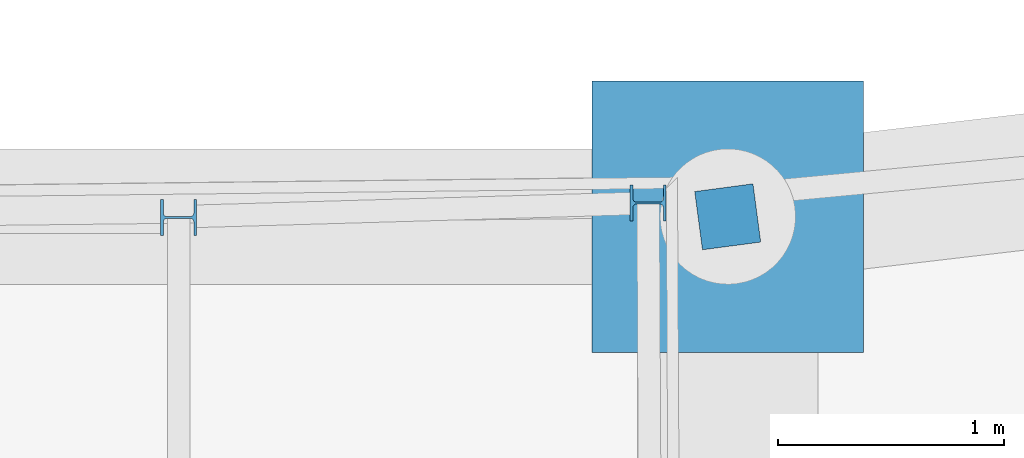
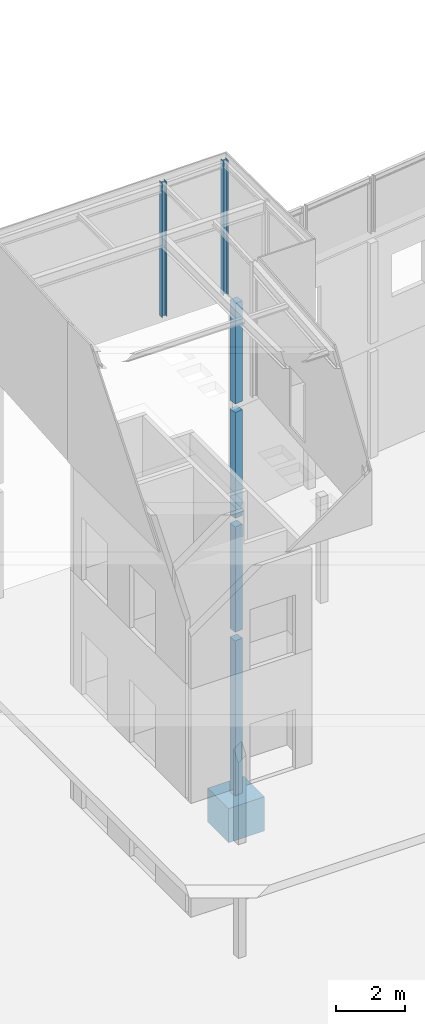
# One storey, part 49 of 82: 7 columns.
"""IFC2X3 building model written with IfcOpenShell, lengths in millimetres."""

import ifcopenshell
import ifcopenshell.guid

model = None  # the IFC model being written
_history = None  # IfcOwnerHistory: only IFC2X3 demands one
_inside = {}  # id of a spatial element -> (the spatial element, [elements in it])
_under = {}  # id of a project, library or spatial element -> (it, [spatial elements below it])
_declared = {}  # id of a project -> (the project, [libraries it declares])
_typed = {}  # id of a type object -> (the type object, [elements of that type])
_made_of = {}  # id of a material, layer set ... -> (it, [elements and type objects made of it])


def new_model(schema):
    """Start an empty IFC model of exactly this schema.

    Asked for "IFC4X3", IfcOpenShell would pick the latest addendum, in which some entities
    have other attributes; the version numbers below select the first issue.
    IFC2X3 requires an IfcOwnerHistory on every rooted entity: one is made here for all.
    """
    global model, _history
    if schema == "IFC4X3":
        model = ifcopenshell.file(schema_version=(4, 3, 0, 0))
    else:
        model = ifcopenshell.file(schema=schema)
    _inside.clear()
    _under.clear()
    _declared.clear()
    _typed.clear()
    _made_of.clear()
    _history = None
    if model.schema == "IFC2X3":
        org = make("IfcOrganization", Name="unknown")
        user = make(
            "IfcPersonAndOrganization",
            ThePerson=make("IfcPerson", FamilyName="unknown"),
            TheOrganization=org,
        )
        app = make(
            "IfcApplication",
            ApplicationDeveloper=org,
            Version="unknown",
            ApplicationFullName="unknown",
            ApplicationIdentifier="unknown",
        )
        _history = make(
            "IfcOwnerHistory",
            OwningUser=user,
            OwningApplication=app,
            ChangeAction="ADDED",
            CreationDate=0,
        )
    return model


def make(cls, **values):
    """One entity of the class cls with the attributes given. An attribute that is None is left unset."""
    return model.create_entity(
        cls, **{name: value for name, value in values.items() if value is not None}
    )


def rooted(cls, **values):
    """An entity with a GlobalId (a new one), such as an element, a storey or a relation."""
    return make(cls, GlobalId=ifcopenshell.guid.new(), OwnerHistory=_history, **values)


def si_unit(unit_type, name, prefix=None):
    """IfcSIUnit, for example si_unit("LENGTHUNIT", "METRE", prefix="MILLI")."""
    return make("IfcSIUnit", UnitType=unit_type, Prefix=prefix, Name=name)


def assignment(units):
    """IfcUnitAssignment: the units of a project."""
    return None if units is None else make("IfcUnitAssignment", Units=units)


def point(xyz):
    """IfcCartesianPoint."""
    return None if xyz is None else make("IfcCartesianPoint", Coordinates=xyz)


def direction(xyz):
    """IfcDirection."""
    return None if xyz is None else make("IfcDirection", DirectionRatios=xyz)


def frame(location, z_axis=None, x_axis=None):
    """IfcAxis2Placement3D, a coordinate frame: its origin and axes. An axis left out is left unset."""
    return make(
        "IfcAxis2Placement3D",
        Location=point(location),
        Axis=direction(z_axis),
        RefDirection=direction(x_axis),
    )


def frame_2d(location, x_axis=None):
    """IfcAxis2Placement2D, a coordinate frame in the plane: its origin and x axis."""
    return make(
        "IfcAxis2Placement2D", Location=point(location), RefDirection=direction(x_axis)
    )


def origin_with_axes():
    """The frame at (0, 0, 0) with the z axis (0, 0, 1) and the x axis (1, 0, 0) written out."""
    return frame((0.0, 0.0, 0.0), z_axis=(0.0, 0.0, 1.0), x_axis=(1.0, 0.0, 0.0))


def place(relative_to, where):
    """IfcLocalPlacement: puts the frame where relative to a parent placement (None: the world)."""
    return make(
        "IfcLocalPlacement", PlacementRelTo=relative_to, RelativePlacement=where
    )


def context(
    kind, dimensions, precision=None, world=None, true_north=None, identifier=None
):
    """IfcGeometricRepresentationContext, for example the 3D "Model" context."""
    return make(
        "IfcGeometricRepresentationContext",
        ContextIdentifier=identifier,
        ContextType=kind,
        CoordinateSpaceDimension=dimensions,
        Precision=precision,
        WorldCoordinateSystem=world,
        TrueNorth=true_north,
    )


def subcontext(parent, identifier, kind, view, scale=None):
    """IfcGeometricRepresentationSubContext, for example "Body" below "Model"."""
    return make(
        "IfcGeometricRepresentationSubContext",
        ContextIdentifier=identifier,
        ContextType=kind,
        ParentContext=parent,
        TargetScale=scale,
        TargetView=view,
    )


def project(units=None, contexts=None):
    """IfcProject with its units and contexts."""
    return rooted(
        "IfcProject",
        Name="project",
        RepresentationContexts=contexts,
        UnitsInContext=assignment(units),
    )


def spatial(cls, under=None, at=None, **own):
    """A site, building, storey or space (cls), placed at a placement, below another one or the project."""
    s = rooted(cls, ObjectPlacement=at, **own)
    if under is not None:
        _under.setdefault(under.id(), (under, []))[1].append(s)
    return s


def profile(cls, at=None, kind="AREA", **sizes):
    """A parametric profile (cls). Its sizes go by their IFC names, for example OverallWidth=200.0."""
    return make(cls, ProfileType=kind, Position=at, **sizes)


def rectangle(**sizes):
    """IfcRectangleProfileDef."""
    return profile("IfcRectangleProfileDef", **sizes)


def i_section(**sizes):
    """IfcIShapeProfileDef."""
    return profile("IfcIShapeProfileDef", **sizes)


def extrude(swept, where, along, depth):
    """IfcExtrudedAreaSolid: the profile swept, set in the frame where, extruded along a direction by depth."""
    return make(
        "IfcExtrudedAreaSolid",
        SweptArea=swept,
        Position=where,
        ExtrudedDirection=direction(along),
        Depth=depth,
    )


def shape(context_of_items, identifier, shape_type, items):
    """IfcShapeRepresentation: the items that make up one representation, for example the "Body"."""
    return make(
        "IfcShapeRepresentation",
        ContextOfItems=context_of_items,
        RepresentationIdentifier=identifier,
        RepresentationType=shape_type,
        Items=items,
    )


def material(Name=None, Category=None):
    """IfcMaterial."""
    return make("IfcMaterial", Name=Name, Category=Category)


def made_of(thing, what):
    """Note that an element or type object is made of a material, layer set ...; save() writes the relation."""
    if what is not None:
        _made_of.setdefault(what.id(), (what, []))[1].append(thing)
    return thing


def type_object(cls, material=None, **own):
    """A type object (cls), such as IfcWallType, which elements share."""
    return made_of(rooted(cls, **own), material)


def element(
    cls,
    number,
    at=None,
    inside=None,
    cuts=None,
    type_object=None,
    material=None,
    context=None,
    identifier="Body",
    shape_type=None,
    held_by="IfcProductDefinitionShape",
    body=None,
    shapes=None,
    **own,
):
    """One element of the class cls, such as IfcWall. Its Tag is "e" and its number.

    at: its placement. inside: the storey or other place that contains it. cuts: it is an
    opening in that element (IfcRelVoidsElement). A single representation is given by context,
    identifier, shape_type and body (its items); several are given by shapes. held_by: the class
    of the entity that holds the representations. save() writes the other relations.
    """
    e = rooted(cls, Tag="e%d" % number, ObjectPlacement=at, **own)
    if body is not None:
        shapes = [shape(context, identifier, shape_type, body)]
    if shapes is not None:
        e.Representation = make(held_by, Representations=shapes)
    if inside is not None:
        _inside.setdefault(inside.id(), (inside, []))[1].append(e)
    if cuts is not None:
        rooted(
            "IfcRelVoidsElement", RelatingBuildingElement=cuts, RelatedOpeningElement=e
        )
    if type_object is not None:
        _typed.setdefault(type_object.id(), (type_object, []))[1].append(e)
    return made_of(e, material)


def aggregate(whole, parts):
    """IfcRelAggregates: a whole, such as a stair, and the parts it consists of."""
    return rooted("IfcRelAggregates", RelatingObject=whole, RelatedObjects=parts)


def save(model, path):
    """Write the relations noted so far, then the file.

    IfcRelAggregates (storeys below a building ...), IfcRelContainedInSpatialStructure (elements
    in a storey), IfcRelDefinesByType, IfcRelAssociatesMaterial and IfcRelDeclares: one each for
    every whole, place, type object, material and project.
    """
    for whole, parts in _under.values():
        aggregate(whole, parts)
    for where, things in _inside.values():
        rooted(
            "IfcRelContainedInSpatialStructure",
            RelatedElements=things,
            RelatingStructure=where,
        )
    for kind, things in _typed.values():
        rooted("IfcRelDefinesByType", RelatedObjects=things, RelatingType=kind)
    for what, things in _made_of.values():
        rooted("IfcRelAssociatesMaterial", RelatedObjects=things, RelatingMaterial=what)
    for by, libraries in _declared.values():
        rooted("IfcRelDeclares", RelatingContext=by, RelatedDefinitions=libraries)
    model.write(path)


model = new_model("IFC2X3")

# Units and contexts
model_context = context("Model", 3, precision=1e-05, world=origin_with_axes())
body_context = subcontext(model_context, "Body", "Model", "MODEL_VIEW")
ifc_project = project(units=[si_unit("LENGTHUNIT", "METRE", prefix="MILLI"), si_unit("AREAUNIT", "SQUARE_METRE"), si_unit("VOLUMEUNIT", "CUBIC_METRE"), si_unit("MASSUNIT", "GRAM", prefix="KILO"), si_unit("TIMEUNIT", "SECOND"), si_unit("PLANEANGLEUNIT", "RADIAN"), si_unit("SOLIDANGLEUNIT", "STERADIAN"), si_unit("THERMODYNAMICTEMPERATUREUNIT", "DEGREE_CELSIUS"), si_unit("LUMINOUSINTENSITYUNIT", "LUMEN")], contexts=[model_context])

# Site, building, storey
site_placement = place(None, origin_with_axes())
site = spatial("IfcSite", under=ifc_project, at=site_placement, Name="Undefined", CompositionType="ELEMENT")
building_placement = place(site_placement, origin_with_axes())
building = spatial("IfcBuilding", under=site, at=building_placement, Name="Undefined", CompositionType="ELEMENT")
storey_placement = place(building_placement, origin_with_axes())
storey = spatial("IfcBuildingStorey", under=building, at=storey_placement, Name="Undefined", CompositionType="ELEMENT", Elevation=0.0)

# Columns
ifc_material_1 = material(Name="CONCRETE/C25/30")
column_type_1 = type_object("IfcColumnType", Name="260*260", PredefinedType="NOTDEFINED")
column_1_placement = place(storey_placement, frame((37349.5093501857, 23544.0348978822, 13330.0), z_axis=(0.0, 0.0, 1.0), x_axis=(1.0, 0.0, 0.0)))
element("IfcColumn", 1, at=column_1_placement, inside=storey, type_object=column_type_1, material=ifc_material_1, Name="POTEAU", ObjectType="260*260", context=body_context, shape_type="SweptSolid", body=[
    extrude(rectangle(XDim=260.0, YDim=260.0, at=frame_2d((5.17284206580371e-08, 4.49290382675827e-10), x_axis=(1.0, 0.0))), frame((0.0, 0.000229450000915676, 3530.0), z_axis=(0.0, -6.50000002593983e-08, -0.999999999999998), x_axis=(-0.131726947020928, 0.991286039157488, -6.44335928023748e-08)), (0.0, 0.0, 1.0), 3530.0),
])
column_2_placement = place(storey_placement, frame((37349.5093501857, 23544.0348978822, 9305.0), z_axis=(0.0, 0.0, 1.0), x_axis=(1.0, 0.0, 0.0)))
element("IfcColumn", 2, at=column_2_placement, inside=storey, type_object=column_type_1, material=ifc_material_1, Name="POTEAU", ObjectType="260*260", context=body_context, shape_type="SweptSolid", body=[
    extrude(rectangle(XDim=260.0, YDim=260.0, at=frame_2d((5.17284206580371e-08, 4.49290382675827e-10), x_axis=(1.0, 0.0))), frame((0.0, 0.000227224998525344, 3725.0), z_axis=(0.0, -6.50000002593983e-08, -0.999999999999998), x_axis=(-0.131726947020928, 0.991286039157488, -6.44335928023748e-08)), (0.0, 0.0, 1.0), 3725.0),
])
column_3_placement = place(storey_placement, frame((37349.5093501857, 23544.0348978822, 5300.0), z_axis=(0.0, 0.0, 1.0), x_axis=(1.0, 0.0, 0.0)))
element("IfcColumn", 3, at=column_3_placement, inside=storey, type_object=column_type_1, material=ifc_material_1, Name="POTEAU", ObjectType="260*260", context=body_context, shape_type="SweptSolid", body=[
    extrude(rectangle(XDim=260.0, YDim=260.0, at=frame_2d((5.17284206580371e-08, 4.49290382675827e-10), x_axis=(1.0, 0.0))), frame((0.0, 0.000229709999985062, 3705.0), z_axis=(0.0, -6.50000002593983e-08, -0.999999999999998), x_axis=(-0.131726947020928, 0.991286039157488, -6.44335928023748e-08)), (0.0, 0.0, 1.0), 3705.0),
])
column_4_placement = place(storey_placement, frame((37349.5093501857, 23544.0348978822, -449.999023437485), z_axis=(0.0, 0.0, 1.0), x_axis=(1.0, 0.0, 0.0)))
element("IfcColumn", 4, at=column_4_placement, inside=storey, type_object=column_type_1, material=ifc_material_1, Name="POTEAU", ObjectType="260*260", context=body_context, shape_type="SweptSolid", body=[
    extrude(rectangle(XDim=260.0, YDim=260.0, at=frame_2d((5.17284206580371e-08, 4.49290382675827e-10), x_axis=(1.0, 0.0))), frame((0.0, 0.000228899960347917, 5449.99902343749), z_axis=(0.0, -6.50000002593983e-08, -0.999999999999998), x_axis=(-0.131726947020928, 0.991286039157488, -6.44335928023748e-08)), (0.0, 0.0, 1.0), 5450.0),
])
ifc_material_2 = material(Name="STEEL/S275JR")
column_type_2 = type_object("IfcColumnType", Name="HEB160", PredefinedType="NOTDEFINED")
for number, where, z_axis, x_axis, name in (
    (5, (34919.9994214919, 23541.3000000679, 17160.0), (0.0, 0.0, 1.0), (1.0, 0.0, 0.0), "POTEAU"),
    (6, (36997.3975835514, 23604.7619570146, 17160.0), (0.0, 0.0, 1.0), (1.0, 0.0, 0.0), "POTEAU"),
):
    element("IfcColumn", number, at=place(storey_placement, frame(where, z_axis=z_axis, x_axis=x_axis)), inside=storey, type_object=column_type_2, material=ifc_material_2, Name=name, ObjectType="HEB160", context=body_context, shape_type="SweptSolid", body=[
        extrude(i_section(OverallWidth=160.0, OverallDepth=160.0, WebThickness=8.0, FlangeThickness=13.0, FilletRadius=15.0, at=frame_2d((5.17284206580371e-08, 4.49290382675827e-10), x_axis=(1.0, 0.0))), frame((0.0, 0.0, 4735.0), z_axis=(0.0, -6.50000002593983e-08, -0.999999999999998), x_axis=(-2.77555756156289e-17, -1.0, 0.0)), (0.0, 0.0, 1.0), 4735.0),
    ])
ifc_material_3 = material(Name="CONCRETE/C30/37")
column_type_3 = type_object("IfcColumnType", Name="1200*1200", PredefinedType="NOTDEFINED")
column_5_placement = place(storey_placement, frame((37350.0020748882, 23544.0911883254, -1650.0), z_axis=(0.0, 0.0, 1.0), x_axis=(1.0, 0.0, 0.0)))
element("IfcColumn", 7, at=column_5_placement, inside=storey, type_object=column_type_3, material=ifc_material_3, Name="SEMELLE", ObjectType="1200*1200", context=body_context, shape_type="SweptSolid", body=[
    extrude(rectangle(XDim=1200.0, YDim=1200.0, at=frame_2d((5.17284206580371e-08, 4.49290382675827e-10), x_axis=(1.0, 0.0))), frame((0.0, 0.0, 1200.0), z_axis=(0.0, -6.50000002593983e-08, -0.999999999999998), x_axis=(-1.0, 0.0, 0.0)), (0.0, 0.0, 1.0), 1200.0),
])

save(model, "model.ifc")
